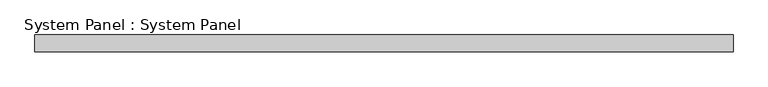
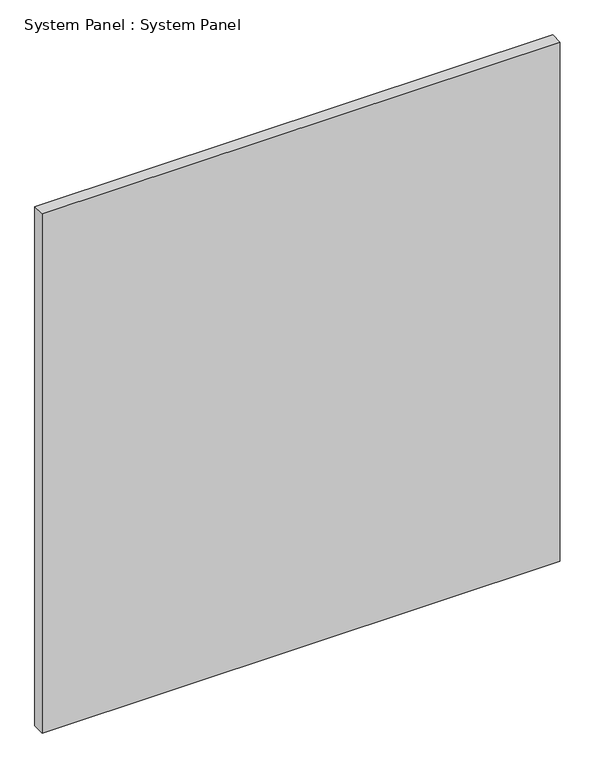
"""IFC4 building model written with IfcOpenShell, lengths in millimetres: plate geometry, System Panel : System Panel."""

from ifc_helpers import new_model, si_unit, origin, origin_with_axes, place, context, project, spatial, polyline, outline, extrude, source, transform, mapped, element, save


def system_panel_system_panel_404112fb(model_context):
    return source(origin(), model_context, "Body", "SweptSolid", [
        extrude(outline(polyline([(530.225, 19.05), (-530.225, 19.05), (-530.225, 44.45), (530.225, 44.45), (530.225, 19.05)])), origin_with_axes(), (0.0, 0.0, 1.0), 1123.95),
    ])


if __name__ == "__main__":
    model = new_model("IFC4")
    model_context = context("Model", 3, world=origin())
    ifc_project = project(units=[si_unit("LENGTHUNIT", "METRE", prefix="MILLI")], contexts=[model_context])
    site = spatial("IfcSite", under=ifc_project)
    building = spatial("IfcBuilding", under=site)
    placement = place(None, origin())
    system_panel_system_panel_shape = system_panel_system_panel_404112fb(model_context)
    element("IfcPlate", 1, ObjectType="System Panel : System Panel", at=placement, inside=building, context=model_context, shape_type="MappedRepresentation", body=[
        mapped(system_panel_system_panel_shape, transform((0.0, 0.0, 0.0), x_axis=(1.0, 0.0, 0.0), y_axis=(0.0, 1.0, 0.0), z_axis=(0.0, 0.0, 1.0))),
    ])
    save(model, "model.ifc")
